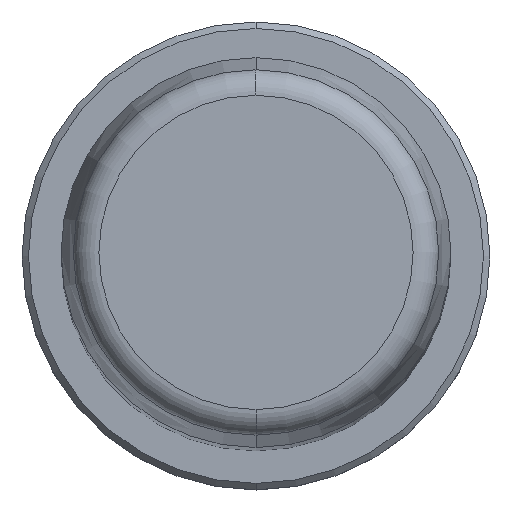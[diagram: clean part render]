
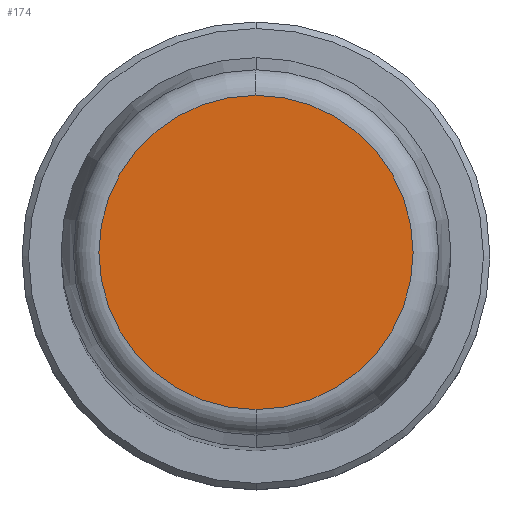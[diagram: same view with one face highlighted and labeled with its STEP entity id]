
A CAD part, top view. The second image highlights one B-rep face of the part: STEP entity #174.
In plain terms, the highlighted planar face has unit normal (0, 0, 1).
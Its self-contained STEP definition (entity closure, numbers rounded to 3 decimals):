
#1=CARTESIAN_POINT('',(0.,0.,160.));
#2=DIRECTION('',(0.,0.,-1.));
#3=DIRECTION('',(0.,-1.,0.));
#4=AXIS2_PLACEMENT_3D('',#1,#2,#3);
#6=CARTESIAN_POINT('',(0.,0.,160.));
#7=DIRECTION('',(0.,0.,-1.));
#8=DIRECTION('',(0.,1.,0.));
#9=AXIS2_PLACEMENT_3D('',#6,#7,#8);
#159=CARTESIAN_POINT('',(0.,-12.088,160.));
#160=CARTESIAN_POINT('',(0.,12.088,160.));
#161=VERTEX_POINT('',#159);
#162=VERTEX_POINT('',#160);
#163=CARTESIAN_POINT('',(0.,0.,160.));
#164=DIRECTION('',(0.,0.,1.));
#165=DIRECTION('',(0.,-1.,0.));
#166=AXIS2_PLACEMENT_3D('',#163,#164,#165);
#167=PLANE('',#166);
#169=ORIENTED_EDGE('',*,*,#168,.T.);
#171=ORIENTED_EDGE('',*,*,#170,.T.);
#172=EDGE_LOOP('',(#169,#171));
#173=FACE_OUTER_BOUND('',#172,.F.);
#174=ADVANCED_FACE('',(#173),#167,.T.);
#5=CIRCLE('',#4,12.088);
#10=CIRCLE('',#9,12.088);
#168=EDGE_CURVE('',#161,#162,#5,.T.);
#170=EDGE_CURVE('',#162,#161,#10,.T.);
